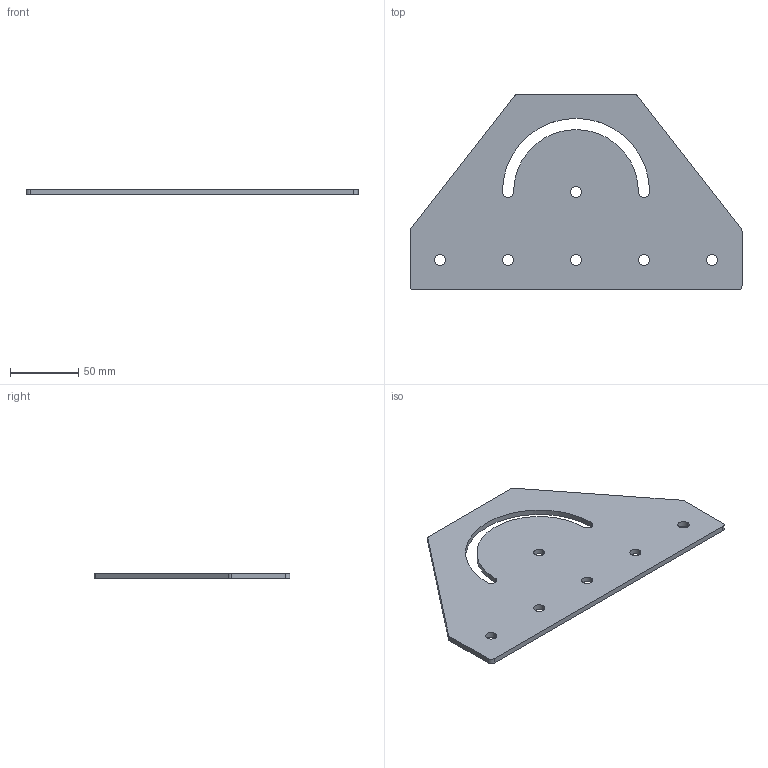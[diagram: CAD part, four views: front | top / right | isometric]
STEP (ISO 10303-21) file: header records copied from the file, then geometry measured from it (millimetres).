
FILE_DESCRIPTION (( 'STEP AP214' ), '1' );
FILE_NAME ('deg180s50.STEP', '2018-03-08T05:53:04', ( '' ), ( '' ), 'SwSTEP 2.0', 'SolidWorks 2014', '' );
FILE_SCHEMA (( 'AUTOMOTIVE_DESIGN' ));
Length unit declared in the file: millimetre
Products named in the file (2): deg180s50
Bounding box: 244 x 144 x 4 mm (x, y, z)
Volume: 102694.3 mm3; surface area: 56007.1 mm2
Topology: 1 solids, 1 shells, 30 faces, 84 edges, 56 vertices
Faces by surface type: cylinder 22, plane 8
Entity records: 1080 total; most frequent: DIRECTION 192, CARTESIAN_POINT 172, ORIENTED_EDGE 168, EDGE_CURVE 84, AXIS2_PLACEMENT_3D 76, VERTEX_POINT 56, CIRCLE 44, EDGE_LOOP 44
